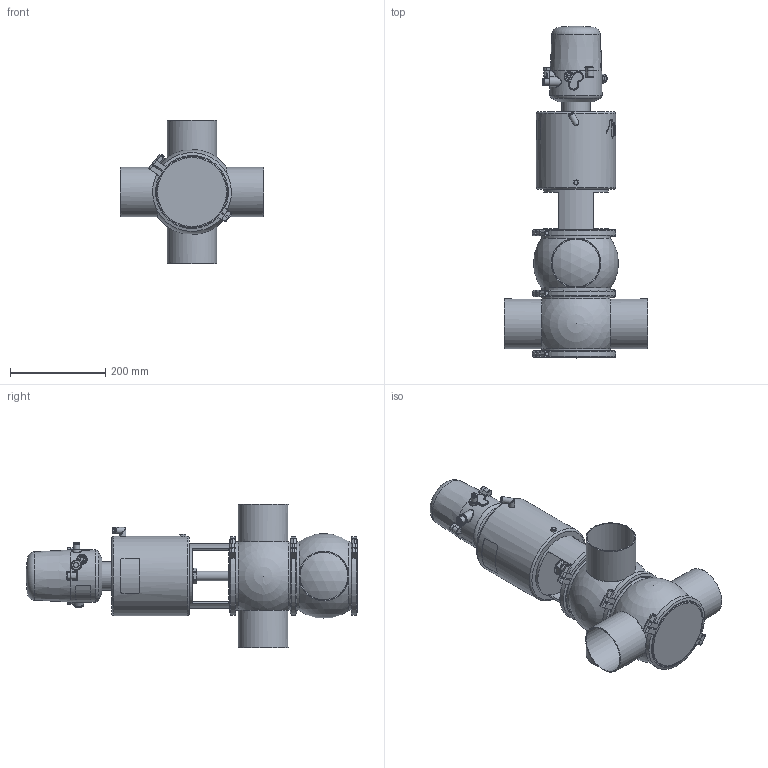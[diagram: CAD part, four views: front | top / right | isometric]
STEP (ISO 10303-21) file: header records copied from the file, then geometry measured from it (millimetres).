
FILE_DESCRIPTION (( 'STEP AP214' ), '1' );
FILE_NAME ('INNOVA M C W DIN 100 T4 AS NC & C-TOP S_10.241.16.0043.STEP', '2024-08-07T06:31:05', ( '' ), ( '' ), 'SwSTEP 2.0', 'SolidWorks 2023', '' );
FILE_SCHEMA (( 'AUTOMOTIVE_DESIGN' ));
Length unit declared in the file: millimetre
Products named in the file (8): 10.240.15.0007_DIN 100; 10.241.15.0001_DIN 100; 10.426.15.0001_C-TOP S - 1 EV; 10.240.15.0001_DN 100; 10.240.15.0014_T4 AS P180; 10.240.15.0017_Estàndard; 10.240.15.0010_DN 100; INNOVA M C W DIN 100 T4 AS NC & C-TOP S_10.241.16.0043
Assembly tree (10 placements, depth 2):
  INNOVA M C W DIN 100 T4 AS NC & C-TOP S_10.241.16.0043
    10.240.15.0007_DIN 100  x2
    10.240.15.0010_DN 100
    10.240.15.0014_T4 AS P180
    10.240.15.0017_Estàndard
    10.426.15.0001_C-TOP S - 1 EV
    10.240.15.0001_DN 100  x3
    10.241.15.0001_DIN 100
Bounding box: 300 x 695.5 x 300 mm (x, y, z)
Volume: 11108709.3 mm3; surface area: 861871 mm2
Topology: 11 solids, 11 shells, 1244 faces, 3038 edges, 2018 vertices
Faces by surface type: plane 444, cylinder 381, cone 211, bspline 160, torus 36, sphere 12
Full cylindrical faces by diameter (mm): 0.371 x17, 0.512 x16, 0.658 x16, 0.795 x16, 0.94 x15, 1.098 x15, 1.241 x13, 1.382 x13, 1.523 x11, 1.669 x10, 2.201 x1, 4 x2, 5.5 x2, 6 x2, 6.15 x1, 8 x8, 8.5 x1, 10 x1, 10.5 x1, 11 x2, 12.5 x3, 13 x2, 13.5 x2, 16 x1, 17 x3, 20 x3, 20.5 x1, 22 x2, 31 x1, 34.5 x3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
Entity records: 57906 total; most frequent: CARTESIAN_POINT 27763, ORIENTED_EDGE 4508, DIRECTION 3633, EDGE_CURVE 2254, VERTEX_POINT 1601, EDGE_LOOP 1553, AXIS2_PLACEMENT_3D 1488, FACE_OUTER_BOUND 1319
